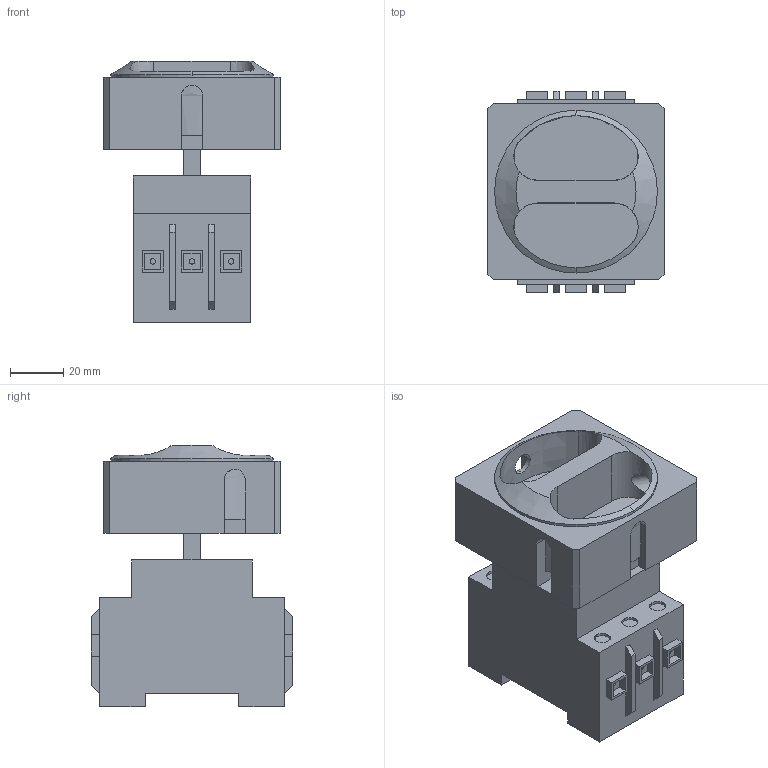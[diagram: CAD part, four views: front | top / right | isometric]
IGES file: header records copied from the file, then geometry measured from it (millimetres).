
Start section:  PTC IGES file: C:\TPO v2\SharedFS\Outgoing\inter_sect_022103_0_ew.igs
Global section: file name: C:\TPO v2\SharedFS\Outgoing\inter_sect_022103_0_ew.igs; native system:  by Parametric Technology Corporation; preprocessor: 2013430; organization: Unknown; date: 20170511.150528; units: millimetre
Bounding box: 66 x 75.4 x 98 mm (x, y, z)
Volume: 235797.8 mm3; surface area: 41834.2 mm2
Topology: 1 solids, 2 shells, 197 faces, 484 edges, 320 vertices
Faces by surface type: bspline 151, revolution 46
